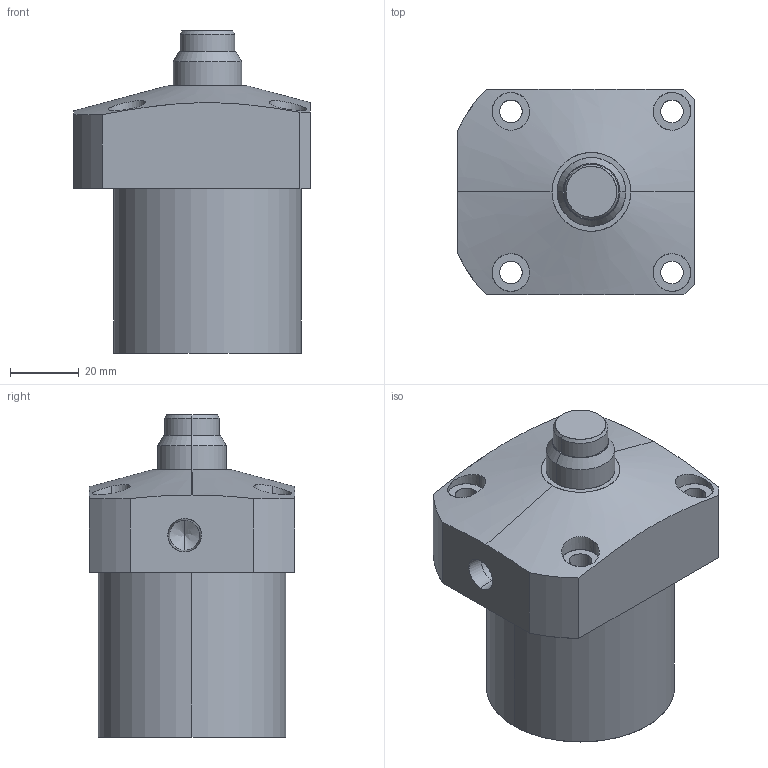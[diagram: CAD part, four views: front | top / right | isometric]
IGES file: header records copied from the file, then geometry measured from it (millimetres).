
Start section: SolidWorks IGES file using analytic representation for surfaces
Global section: file name: E:\FLANG-WORK-SUPPORT-IGS MODEL\FW09-55.IGS; native system: SolidWorks 2019; preprocessor: SolidWorks 2019; author: SSVT; date: 210821.170353; units: millimetre
Bounding box: 69 x 60 x 94 mm (x, y, z)
Surface area: 30944.1 mm2 (no closed solid volume)
Topology: 0 solids, 0 shells, 58 faces, 1336 edges, 1334 vertices
Faces by surface type: revolution 40, bspline 18
